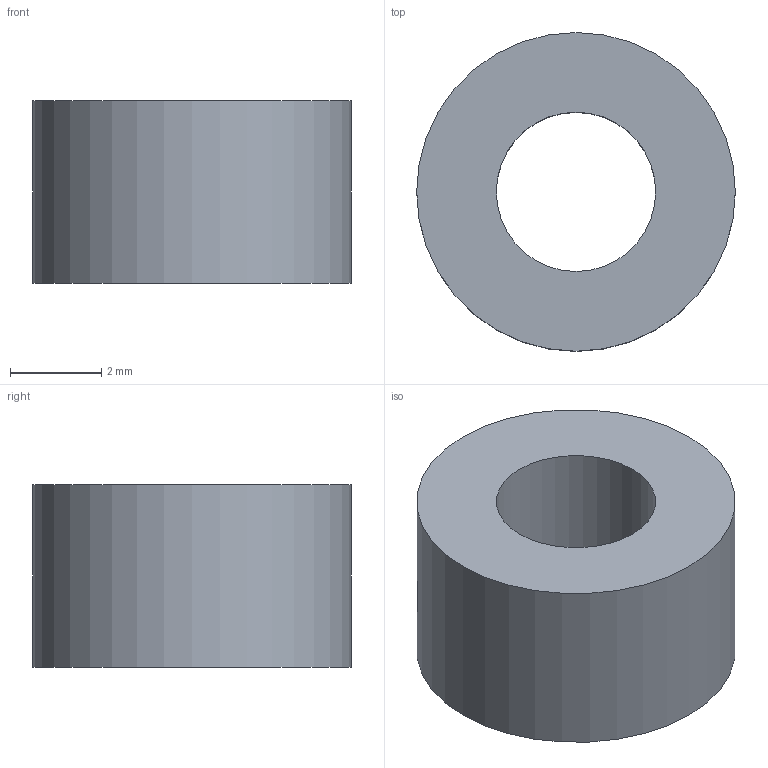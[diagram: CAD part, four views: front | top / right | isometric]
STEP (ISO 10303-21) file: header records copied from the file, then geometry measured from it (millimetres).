
FILE_DESCRIPTION(('Open CASCADE Model'),'2;1');
FILE_NAME('Open CASCADE Shape Model','2026-10-13T11:47:37',('Author'),( 'Open CASCADE'),'Open CASCADE STEP processor 7.8','Open CASCADE 7.8' ,'Unknown');
FILE_SCHEMA(('AUTOMOTIVE_DESIGN { 1 0 10303 214 1 1 1 1 }'));
Length unit declared in the file: millimetre
Products named in the file (1): Open CASCADE STEP translator 7.8 96
Bounding box: 7 x 7 x 4 mm (x, y, z)
Volume: 115.5 mm3; surface area: 189.7 mm2
Topology: 1 solids, 1 shells, 4 faces, 6 edges, 4 vertices
Faces by surface type: cylinder 2, plane 2
Full cylindrical faces by diameter (mm): 3.5 x1, 7 x1
Entity records: 186 total; most frequent: DIRECTION 32, CARTESIAN_POINT 27, ORIENTED_EDGE 12, PCURVE 12, DEFINITIONAL_REPRESENTATION 12, LINE 10, VECTOR 10, AXIS2_PLACEMENT_3D 9
